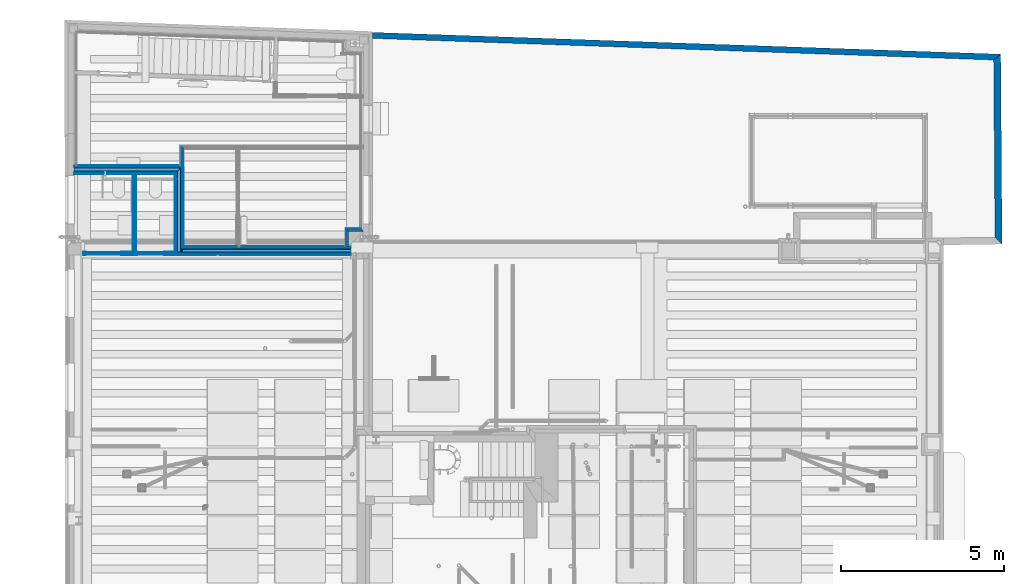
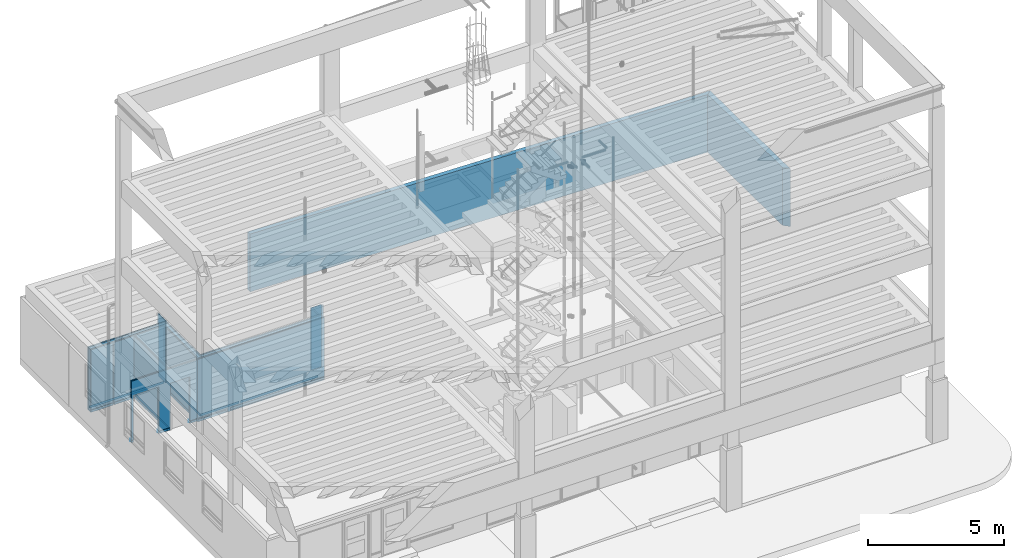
# One storey, part 10 of 108: 52 building element parts, 2 walls, 2 openings, 8 elements without a shape of their own.
"""IFC2X3 building model written with IfcOpenShell, lengths in metres."""

from ifc_helpers import new_model, entity, si_unit, converted_unit, derived_unit, money_unit, direction, frame, frame_2d, origin_with_axes, place, context, subcontext, project, spatial, polyline, rectangle, outline, composite_profile, extrude, material, layer, layer_set, layer_usage, type_object, element, aggregate, save


model = new_model("IFC2X3")

# Units and contexts
model_context = context("Model", 3, precision=1e-05, world=origin_with_axes(), true_north=direction((0.0, 1.0)))
body_context = subcontext(model_context, "Body", "Model", "MODEL_VIEW", scale=1.0)
ifc_project = project(units=[si_unit("LENGTHUNIT", "METRE"), si_unit("AREAUNIT", "SQUARE_METRE"), si_unit("VOLUMEUNIT", "CUBIC_METRE"), si_unit("ABSORBEDDOSEUNIT", "GRAY"), si_unit("AMOUNTOFSUBSTANCEUNIT", "MOLE"), si_unit("DOSEEQUIVALENTUNIT", "SIEVERT"), si_unit("ELECTRICCAPACITANCEUNIT", "FARAD"), si_unit("ELECTRICCHARGEUNIT", "COULOMB"), si_unit("ELECTRICCONDUCTANCEUNIT", "SIEMENS"), si_unit("ELECTRICCURRENTUNIT", "AMPERE"), si_unit("ELECTRICRESISTANCEUNIT", "OHM"), si_unit("ELECTRICVOLTAGEUNIT", "VOLT"), si_unit("ENERGYUNIT", "JOULE"), si_unit("FORCEUNIT", "NEWTON"), si_unit("FREQUENCYUNIT", "HERTZ"), si_unit("ILLUMINANCEUNIT", "LUX"), si_unit("INDUCTANCEUNIT", "HENRY"), si_unit("LUMINOUSFLUXUNIT", "LUMEN"), si_unit("LUMINOUSINTENSITYUNIT", "CANDELA"), si_unit("MAGNETICFLUXDENSITYUNIT", "TESLA"), si_unit("MAGNETICFLUXUNIT", "WEBER"), si_unit("MASSUNIT", "GRAM"), converted_unit("PLANEANGLEUNIT", "degree", entity("IfcReal", 0.0174532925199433), si_unit("PLANEANGLEUNIT", "RADIAN"), dimensions=[0, 0, 0, 0, 0, 0, 0]), si_unit("POWERUNIT", "WATT"), si_unit("PRESSUREUNIT", "PASCAL"), si_unit("RADIOACTIVITYUNIT", "BECQUEREL"), si_unit("SOLIDANGLEUNIT", "STERADIAN"), si_unit("THERMODYNAMICTEMPERATUREUNIT", "KELVIN"), si_unit("TIMEUNIT", "SECOND"), derived_unit("ACCELERATIONUNIT", [(si_unit("LENGTHUNIT", "METRE"), 1), (si_unit("TIMEUNIT", "SECOND"), -2)]), derived_unit("ANGULARVELOCITYUNIT", [(converted_unit("PLANEANGLEUNIT", "degree", entity("IfcReal", 0.0174532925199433), si_unit("PLANEANGLEUNIT", "RADIAN"), dimensions=[0, 0, 0, 0, 0, 0, 0]), 1), (si_unit("TIMEUNIT", "SECOND"), -1)]), derived_unit("CURVATUREUNIT", [(converted_unit("PLANEANGLEUNIT", "degree", entity("IfcReal", 0.0174532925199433), si_unit("PLANEANGLEUNIT", "RADIAN"), dimensions=[0, 0, 0, 0, 0, 0, 0]), 1), (si_unit("LENGTHUNIT", "METRE"), -1)]), derived_unit("DYNAMICVISCOSITYUNIT", [(si_unit("PRESSUREUNIT", "PASCAL"), 1), (si_unit("TIMEUNIT", "SECOND"), 1)]), derived_unit("HEATFLUXDENSITYUNIT", [(si_unit("POWERUNIT", "WATT"), 1), (si_unit("LENGTHUNIT", "METRE"), -2)]), derived_unit("HEATINGVALUEUNIT", [(si_unit("ENERGYUNIT", "JOULE"), 1), (si_unit("MASSUNIT", "GRAM"), -1)]), derived_unit("INTEGERCOUNTRATEUNIT", [(si_unit("TIMEUNIT", "SECOND"), -1)]), derived_unit("IONCONCENTRATIONUNIT", [(si_unit("MASSUNIT", "GRAM"), 1), (si_unit("VOLUMEUNIT", "CUBIC_METRE"), -1)]), derived_unit("ISOTHERMALMOISTURECAPACITYUNIT", [(si_unit("VOLUMEUNIT", "CUBIC_METRE"), 1), (si_unit("MASSUNIT", "GRAM"), -1)]), derived_unit("KINEMATICVISCOSITYUNIT", [(si_unit("AREAUNIT", "SQUARE_METRE"), 1), (si_unit("TIMEUNIT", "SECOND"), -1)]), derived_unit("LINEARFORCEUNIT", [(si_unit("FORCEUNIT", "NEWTON"), 1), (si_unit("LENGTHUNIT", "METRE"), -1)]), derived_unit("LINEARMOMENTUNIT", [(si_unit("FORCEUNIT", "NEWTON"), 1), (si_unit("LENGTHUNIT", "METRE"), -1)]), derived_unit("LINEARSTIFFNESSUNIT", [(si_unit("FORCEUNIT", "NEWTON"), 1), (si_unit("LENGTHUNIT", "METRE"), -1)]), derived_unit("LINEARVELOCITYUNIT", [(si_unit("LENGTHUNIT", "METRE"), 1), (si_unit("TIMEUNIT", "SECOND"), -1)]), derived_unit("LUMINOUSINTENSITYDISTRIBUTIONUNIT", [(si_unit("LUMINOUSINTENSITYUNIT", "CANDELA"), 1), (si_unit("LUMINOUSFLUXUNIT", "LUMEN"), -1)]), derived_unit("MASSDENSITYUNIT", [(si_unit("MASSUNIT", "GRAM"), 1), (si_unit("VOLUMEUNIT", "CUBIC_METRE"), -1)]), derived_unit("MASSFLOWRATEUNIT", [(si_unit("MASSUNIT", "GRAM"), 1), (si_unit("TIMEUNIT", "SECOND"), -1)]), derived_unit("MASSPERLENGTHUNIT", [(si_unit("MASSUNIT", "GRAM"), 1), (si_unit("LENGTHUNIT", "METRE"), -1)]), derived_unit("MODULUSOFELASTICITYUNIT", [(si_unit("FORCEUNIT", "NEWTON"), 1), (si_unit("AREAUNIT", "SQUARE_METRE"), -1)]), derived_unit("MODULUSOFLINEARSUBGRADEREACTIONUNIT", [(si_unit("FORCEUNIT", "NEWTON"), 1), (si_unit("LENGTHUNIT", "METRE"), -2)]), derived_unit("MODULUSOFROTATIONALSUBGRADEREACTIONUNIT", [(si_unit("FORCEUNIT", "NEWTON"), 1), (si_unit("LENGTHUNIT", "METRE"), 1)]), derived_unit("MODULUSOFSUBGRADEREACTIONUNIT", [(si_unit("FORCEUNIT", "NEWTON"), 1), (si_unit("VOLUMEUNIT", "CUBIC_METRE"), -1)]), derived_unit("MOISTUREDIFFUSIVITYUNIT", [(si_unit("VOLUMEUNIT", "CUBIC_METRE"), 1), (si_unit("TIMEUNIT", "SECOND"), -1)]), derived_unit("MOLECULARWEIGHTUNIT", [(si_unit("MASSUNIT", "GRAM"), 1), (si_unit("AMOUNTOFSUBSTANCEUNIT", "MOLE"), -1)]), derived_unit("PLANARFORCEUNIT", [(si_unit("FORCEUNIT", "NEWTON"), 1), (si_unit("LENGTHUNIT", "METRE"), -2)]), derived_unit("ROTATIONALFREQUENCYUNIT", [(si_unit("TIMEUNIT", "SECOND"), -1)]), derived_unit("ROTATIONALMASSUNIT", [(si_unit("MASSUNIT", "GRAM"), 1), (si_unit("LENGTHUNIT", "METRE"), 2)]), derived_unit("ROTATIONALSTIFFNESSUNIT", [(si_unit("FORCEUNIT", "NEWTON"), 1), (si_unit("LENGTHUNIT", "METRE"), 1), (converted_unit("PLANEANGLEUNIT", "degree", entity("IfcReal", 0.0174532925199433), si_unit("PLANEANGLEUNIT", "RADIAN"), dimensions=[0, 0, 0, 0, 0, 0, 0]), -1)]), derived_unit("SECTIONAREAINTEGRALUNIT", [(si_unit("LENGTHUNIT", "METRE"), 5)]), derived_unit("SECTIONMODULUSUNIT", [(si_unit("LENGTHUNIT", "METRE"), 3)]), derived_unit("SHEARMODULUSUNIT", [(si_unit("FORCEUNIT", "NEWTON"), 1), (si_unit("AREAUNIT", "SQUARE_METRE"), -1)]), derived_unit("SOUNDPOWERUNIT", [(si_unit("ENERGYUNIT", "JOULE"), 1), (si_unit("TIMEUNIT", "SECOND"), -1)]), derived_unit("SPECIFICHEATCAPACITYUNIT", [(si_unit("FORCEUNIT", "NEWTON"), 1), (si_unit("MASSUNIT", "GRAM"), -1), (si_unit("THERMODYNAMICTEMPERATUREUNIT", "KELVIN"), -1)]), derived_unit("TEMPERATUREGRADIENTUNIT", [(si_unit("THERMODYNAMICTEMPERATUREUNIT", "KELVIN"), 1), (si_unit("LENGTHUNIT", "METRE"), -1)]), derived_unit("THERMALADMITTANCEUNIT", [(si_unit("POWERUNIT", "WATT"), 1), (si_unit("AREAUNIT", "SQUARE_METRE"), -1), (si_unit("THERMODYNAMICTEMPERATUREUNIT", "KELVIN"), -1)]), derived_unit("THERMALCONDUCTANCEUNIT", [(si_unit("POWERUNIT", "WATT"), 1), (si_unit("LENGTHUNIT", "METRE"), -1), (si_unit("THERMODYNAMICTEMPERATUREUNIT", "KELVIN"), -1)]), derived_unit("THERMALEXPANSIONCOEFFICIENTUNIT", [(si_unit("THERMODYNAMICTEMPERATUREUNIT", "KELVIN"), -1)]), derived_unit("THERMALRESISTANCEUNIT", [(si_unit("AREAUNIT", "SQUARE_METRE"), 1), (si_unit("POWERUNIT", "WATT"), -1)]), derived_unit("THERMALTRANSMITTANCEUNIT", [(si_unit("POWERUNIT", "WATT"), 1), (si_unit("AREAUNIT", "SQUARE_METRE"), -1), (si_unit("THERMODYNAMICTEMPERATUREUNIT", "KELVIN"), -1)]), derived_unit("TORQUEUNIT", [(si_unit("FORCEUNIT", "NEWTON"), 1), (si_unit("LENGTHUNIT", "METRE"), 1)]), derived_unit("VAPORPERMEABILITYUNIT", [(si_unit("MASSUNIT", "GRAM"), 1), (si_unit("TIMEUNIT", "SECOND"), -1)]), derived_unit("VOLUMETRICFLOWRATEUNIT", [(si_unit("VOLUMEUNIT", "CUBIC_METRE"), 1), (si_unit("TIMEUNIT", "SECOND"), -1)]), derived_unit("WARPINGCONSTANTUNIT", [(si_unit("LENGTHUNIT", "METRE"), 6)]), derived_unit("WARPINGMOMENTUNIT", [(si_unit("FORCEUNIT", "NEWTON"), 1), (si_unit("LENGTHUNIT", "METRE"), 2)]), money_unit("GBP")], contexts=[model_context])

# Site, building, storey
site_placement = place(None, origin_with_axes())
site = spatial("IfcSite", under=ifc_project, at=site_placement, Name="Site", CompositionType="ELEMENT")
building_placement = place(site_placement, origin_with_axes())
building = spatial("IfcBuilding", under=site, at=building_placement, Name="Building01", CompositionType="ELEMENT")
storey_placement = place(building_placement, origin_with_axes())
storey = spatial("IfcBuildingStorey", under=building, at=storey_placement, Name="GF", CompositionType="ELEMENT", Elevation=0.0)

# Walls
ifc_material_1 = material(Name="A_BSUK_WallsExternal_Brick")
ifc_layer_1 = layer(ifc_material_1, 0.215, ventilated=False)
ifc_layer_set_1 = layer_set([ifc_layer_1])
ifc_layer_usage_1 = layer_usage(ifc_layer_set_1, "AXIS2", "POSITIVE", 0.0)
wall_type_1 = type_object("IfcWallType", Name="A-Walls-ExternalBrick", PredefinedType="NOTDEFINED")
wall_1_placement = place(storey_placement, frame((28.782327, 14.728819, -0.16), z_axis=(0.0, 0.0, 1.0), x_axis=(-0.00731243, 0.99997326, 0.0)))
element("IfcWallStandardCase", 1, at=wall_1_placement, inside=storey, type_object=wall_type_1, material=ifc_layer_usage_1, Name="A-Walls-ExternalBrick", ObjectType="A-Walls-ExternalBrick", context=body_context, shape_type="SweptSolid", body=[
    extrude(outline(polyline([(5.659049, 0.215), (0.213472, 0.215), (0.0, 0.0), (5.835176, 0.0), (5.659049, 0.215)])), origin_with_axes(), (0.0, 0.0, 1.0), 2.6),
])
ifc_layer_2 = layer(ifc_material_1, 0.185, ventilated=False)
ifc_layer_set_2 = layer_set([ifc_layer_2])
ifc_layer_usage_2 = layer_usage(ifc_layer_set_2, "AXIS2", "POSITIVE", 0.0)
wall_2_placement = place(storey_placement, frame((9.443492, 21.048412, -0.16), z_axis=(0.0, 0.0, 1.0), x_axis=(0.99939831, -0.03468468, 0.0)))
element("IfcWallStandardCase", 2, at=wall_2_placement, inside=storey, type_object=wall_type_1, material=ifc_layer_usage_2, Name="A-Walls-ExternalBrick", ObjectType="A-Walls-ExternalBrick", context=body_context, shape_type="SweptSolid", body=[
    extrude(outline(polyline([(19.301363, 0.185), (-0.006414, 0.185), (0.0, 0.0), (19.093948, 0.0), (19.301363, 0.185)])), origin_with_axes(), (0.0, 0.0, 1.0), 2.6),
])

# Wall, building element parts
wall_type_2 = type_object("IfcWallType", Name="SHE_A-Walls_Type01a_Partywall_250mm_twin", PredefinedType="NOTDEFINED")
wall_3_placement = place(storey_placement, frame((3.455525, 16.968647, 0.148), z_axis=(0.0, 0.0, 1.0), x_axis=(0.0, -1.0, 0.0)))
wall_3 = element("IfcWall", 3, at=wall_3_placement, inside=storey, type_object=wall_type_2, Name="1A", ObjectType="SHE_A-Walls_Type01a_Partywall_250mm_twin")
ifc_material_2 = material(Name="A_BSUK_Walls_Timber")
placement_1 = place(wall_3_placement, origin_with_axes())
building_element_part_1 = element("IfcBuildingElementPart", 4, at=placement_1, material=ifc_material_2, Name="1", context=body_context, shape_type="SweptSolid", body=[
    extrude(composite_profile([outline(polyline([(0.259998, -0.09), (2.473647, -0.09), (2.488647, -0.075), (0.259998, -0.075), (0.259998, -0.09)])), outline(polyline([(0.209998, -0.075), (0.075, -0.075), (0.09, -0.09), (0.209998, -0.09), (0.209998, -0.075)]))]), frame((0.0, 0.0, 0.015), z_axis=(0.0, 0.0, 1.0), x_axis=(1.0, 0.0, 0.0)), (0.0, 0.0, 1.0), 0.1),
])
ifc_material_3 = material(Name="A_BSUK_WallInternal_Finishes_Plasterboard")
building_element_part_2 = element("IfcBuildingElementPart", 5, at=placement_1, material=ifc_material_3, Name="2", context=body_context, shape_type="SweptSolid", body=[
    extrude(composite_profile([outline(polyline([(0.259998, -0.075), (2.568647, -0.075), (2.553647, -0.06), (0.259998, -0.06), (0.259998, -0.075)])), outline(polyline([(0.209998, -0.06), (0.06, -0.06), (0.075, -0.075), (0.209998, -0.075), (0.209998, -0.06)]))]), origin_with_axes(), (0.0, 0.0, 1.0), 2.812),
])
building_element_part_3 = element("IfcBuildingElementPart", 6, at=placement_1, material=ifc_material_3, Name="3", context=body_context, shape_type="SweptSolid", body=[
    extrude(composite_profile([rectangle(XDim=2.27864974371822, YDim=0.015, at=frame_2d((1.399322, -0.0525), x_axis=(1.0, 0.0))), outline(polyline([(0.209998, -0.045), (0.045, -0.045), (0.06, -0.06), (0.209998, -0.06), (0.209998, -0.045)]))]), origin_with_axes(), (0.0, 0.0, 1.0), 2.812),
])
ifc_material_4 = material(Name="Air Cavity")
building_element_part_4 = element("IfcBuildingElementPart", 7, at=placement_1, material=ifc_material_4, Name="4", context=body_context, shape_type="SweptSolid", body=[
    extrude(outline(polyline([(0.0, 0.0), (0.045, -0.045), (2.538647, -0.045), (2.538647, 0.0), (0.0, 0.0)]), holes=[polyline([(0.209998, -0.014999), (0.259998, -0.014999), (0.259998, -0.030001), (0.209998, -0.030001), (0.209998, -0.014999)])]), origin_with_axes(), (0.0, 0.0, 1.0), 2.812),
])
ifc_material_5 = material(Name="A_BSUK_Insulation")
building_element_part_5 = element("IfcBuildingElementPart", 8, at=placement_1, material=ifc_material_5, Name="5", context=body_context, shape_type="SweptSolid", body=[
    extrude(outline(polyline([(2.493647, 0.1), (-0.1, 0.1), (0.0, 0.0), (2.493647, 0.0), (2.493647, 0.1)])), origin_with_axes(), (0.0, 0.0, 1.0), 2.812),
])
building_element_part_6 = element("IfcBuildingElementPart", 9, at=placement_1, material=ifc_material_4, Name="6", context=body_context, shape_type="SweptSolid", body=[
    extrude(outline(polyline([(2.493647, 0.145), (-0.145, 0.145), (-0.1, 0.1), (2.493647, 0.1), (2.493647, 0.145)])), origin_with_axes(), (0.0, 0.0, 1.0), 2.812),
])
building_element_part_7 = element("IfcBuildingElementPart", 10, at=placement_1, material=ifc_material_3, Name="7", context=body_context, shape_type="SweptSolid", body=[
    extrude(outline(polyline([(2.348647, 0.16), (-0.16, 0.16), (-0.145, 0.145), (2.348647, 0.145), (2.348647, 0.16)])), origin_with_axes(), (0.0, 0.0, 1.0), 2.812),
])
building_element_part_8 = element("IfcBuildingElementPart", 11, at=placement_1, material=ifc_material_3, Name="8", context=body_context, shape_type="SweptSolid", body=[
    extrude(outline(polyline([(2.333647, 0.175), (-0.175, 0.175), (-0.16, 0.16), (2.333647, 0.16), (2.333647, 0.175)])), origin_with_axes(), (0.0, 0.0, 1.0), 2.812),
])
building_element_part_9 = element("IfcBuildingElementPart", 12, at=placement_1, material=ifc_material_2, Name="9", context=body_context, shape_type="SweptSolid", body=[
    extrude(outline(polyline([(2.318647, 0.19), (-0.19, 0.19), (-0.175, 0.175), (2.318647, 0.175), (2.318647, 0.19)])), frame((0.0, 0.0, 0.015), z_axis=(0.0, 0.0, 1.0), x_axis=(1.0, 0.0, 0.0)), (0.0, 0.0, 1.0), 0.1),
])
aggregate(wall_3, [building_element_part_1, building_element_part_2, building_element_part_3, building_element_part_4, building_element_part_5, building_element_part_6, building_element_part_7, building_element_part_8, building_element_part_9])

wall_4_placement = place(storey_placement, frame((0.280854, 16.968647, 0.148), z_axis=(0.0, 0.0, 1.0), x_axis=(1.0, 0.0, 0.0)))
wall_4 = element("IfcWall", 13, at=wall_4_placement, inside=storey, type_object=wall_type_2, Name="1A", ObjectType="SHE_A-Walls_Type01a_Partywall_250mm_twin")
placement_2 = place(wall_4_placement, origin_with_axes())
building_element_part_10 = element("IfcBuildingElementPart", 14, at=placement_2, material=ifc_material_2, Name="1", context=body_context, shape_type="SweptSolid", body=[
    extrude(composite_profile([outline(polyline([(1.914671, -0.09), (3.084671, -0.09), (3.099671, -0.075), (1.899671, -0.075), (1.914671, -0.09)])), outline(polyline([(0.934671, -0.075), (-3e-06, -0.075), (-3e-06, -0.09), (0.934671, -0.09), (0.934671, -0.075)])), outline(polyline([(0.984671, -0.09), (1.804671, -0.09), (1.819671, -0.075), (0.984671, -0.075), (0.984671, -0.09)]))]), frame((0.0, 0.0, 0.015), z_axis=(0.0, 0.0, 1.0), x_axis=(1.0, 0.0, 0.0)), (0.0, 0.0, 1.0), 0.1),
])
building_element_part_11 = element("IfcBuildingElementPart", 15, at=placement_2, material=ifc_material_3, Name="2", context=body_context, shape_type="SweptSolid", body=[
    extrude(composite_profile([outline(polyline([(1.899671, -0.075), (3.099671, -0.075), (3.114671, -0.06), (1.884671, -0.06), (1.899671, -0.075)])), outline(polyline([(0.934671, -0.06), (-2e-06, -0.06), (-3e-06, -0.075), (0.934671, -0.075), (0.934671, -0.06)])), outline(polyline([(0.984671, -0.075), (1.819671, -0.075), (1.834671, -0.06), (0.984671, -0.06), (0.984671, -0.075)]))]), origin_with_axes(), (0.0, 0.0, 1.0), 2.812),
])
building_element_part_12 = element("IfcBuildingElementPart", 16, at=placement_2, material=ifc_material_3, Name="3", context=body_context, shape_type="SweptSolid", body=[
    extrude(composite_profile([outline(polyline([(1.871671, -0.06), (3.114671, -0.06), (3.129671, -0.045), (1.871671, -0.045), (1.871671, -0.06)])), outline(polyline([(0.934671, -0.045), (-2e-06, -0.045), (-2e-06, -0.06), (0.934671, -0.06), (0.934671, -0.045)])), rectangle(XDim=0.862, YDim=0.015, at=frame_2d((1.415671, -0.0525), x_axis=(1.0, 0.0)))]), origin_with_axes(), (0.0, 0.0, 1.0), 2.812),
])
building_element_part_13 = element("IfcBuildingElementPart", 17, at=placement_2, material=ifc_material_4, Name="4", context=body_context, shape_type="SweptSolid", body=[
    extrude(outline(polyline([(0.0, 0.0), (-2e-06, -0.045), (3.129671, -0.045), (3.174671, 0.0), (0.0, 0.0)]), holes=[polyline([(1.846671, -0.014999), (1.871671, -0.014999), (1.871671, -0.030001), (1.846671, -0.030001), (1.846671, -0.014999)]), polyline([(0.984671, -0.030001), (0.934671, -0.030001), (0.934671, -0.014999), (0.984671, -0.014999), (0.984671, -0.030001)])]), origin_with_axes(), (0.0, 0.0, 1.0), 2.812),
])
building_element_part_14 = element("IfcBuildingElementPart", 18, at=placement_2, material=ifc_material_5, Name="5", context=body_context, shape_type="SweptSolid", body=[
    extrude(outline(polyline([(3.274671, 0.1), (4e-06, 0.1), (0.0, 0.0), (3.174671, 0.0), (3.274671, 0.1)])), origin_with_axes(), (0.0, 0.0, 1.0), 2.812),
])
building_element_part_15 = element("IfcBuildingElementPart", 19, at=placement_2, material=ifc_material_4, Name="6", context=body_context, shape_type="SweptSolid", body=[
    extrude(outline(polyline([(3.319671, 0.145), (5e-06, 0.145), (4e-06, 0.1), (3.274671, 0.1), (3.319671, 0.145)])), origin_with_axes(), (0.0, 0.0, 1.0), 2.812),
])
building_element_part_16 = element("IfcBuildingElementPart", 20, at=placement_2, material=ifc_material_3, Name="7", context=body_context, shape_type="SweptSolid", body=[
    extrude(outline(polyline([(3.334671, 0.16), (6e-06, 0.16), (5e-06, 0.145), (3.319671, 0.145), (3.334671, 0.16)])), origin_with_axes(), (0.0, 0.0, 1.0), 2.812),
])
building_element_part_17 = element("IfcBuildingElementPart", 21, at=placement_2, material=ifc_material_3, Name="8", context=body_context, shape_type="SweptSolid", body=[
    extrude(outline(polyline([(3.349671, 0.175), (7e-06, 0.175), (6e-06, 0.16), (3.334671, 0.16), (3.349671, 0.175)])), origin_with_axes(), (0.0, 0.0, 1.0), 2.812),
])
building_element_part_18 = element("IfcBuildingElementPart", 22, at=placement_2, material=ifc_material_2, Name="9", context=body_context, shape_type="SweptSolid", body=[
    extrude(rectangle(XDim=3.182664, YDim=0.015, at=frame_2d((1.663339, 0.1825), x_axis=(-1.0, 0.0))), frame((0.0, 0.0, 0.015), z_axis=(0.0, 0.0, 1.0), x_axis=(1.0, 0.0, 0.0)), (0.0, 0.0, 1.0), 0.1),
])
aggregate(wall_4, [building_element_part_10, building_element_part_11, building_element_part_12, building_element_part_13, building_element_part_14, building_element_part_15, building_element_part_16, building_element_part_17, building_element_part_18])

wall_type_3 = type_object("IfcWallType", Name="SHE_A-Walls_Type05b_Partition_80mm", PredefinedType="NOTDEFINED")
wall_5_placement = place(storey_placement, frame((2.140025, 16.893647, 0.198), z_axis=(0.0, 0.0, 1.0), x_axis=(0.0, -1.0, 0.0)))
wall_5 = element("IfcWall", 23, at=wall_5_placement, inside=storey, type_object=wall_type_3, Name="5B", ObjectType="SHE_A-Walls_Type05b_Partition_80mm")
placement_3 = place(wall_5_placement, origin_with_axes())
building_element_part_19 = element("IfcBuildingElementPart", 24, at=placement_3, material=ifc_material_2, Name="1", context=body_context, shape_type="SweptSolid", body=[
    extrude(outline(polyline([(2.413647, -0.0395), (0.0, -0.0395), (0.015, -0.0545), (2.398647, -0.0545), (2.413647, -0.0395)])), frame((0.0, 0.0, 0.015), z_axis=(0.0, 0.0, 1.0), x_axis=(1.0, 0.0, 0.0)), (0.0, 0.0, 1.0), 0.1),
])
building_element_part_20 = element("IfcBuildingElementPart", 25, at=placement_3, material=ifc_material_3, Name="2", context=body_context, shape_type="SweptSolid", body=[
    extrude(rectangle(XDim=2.428647, YDim=0.015, at=frame_2d((1.214324, -0.032), x_axis=(-1.0, 0.0))), origin_with_axes(), (0.0, 0.0, 1.0), 2.762),
])
building_element_part_21 = element("IfcBuildingElementPart", 26, at=placement_3, material=ifc_material_4, Name="3", context=body_context, shape_type="SweptSolid", body=[
    extrude(rectangle(XDim=2.428647, YDim=0.012, at=frame_2d((1.214324, -0.0185), x_axis=(-1.0, 0.0))), origin_with_axes(), (0.0, 0.0, 1.0), 2.762),
])
building_element_part_22 = element("IfcBuildingElementPart", 27, at=placement_3, material=ifc_material_5, Name="4", context=body_context, shape_type="SweptSolid", body=[
    extrude(rectangle(XDim=2.441647, YDim=0.025, at=frame_2d((1.220824, 0.0), x_axis=(-1.0, 0.0))), origin_with_axes(), (0.0, 0.0, 1.0), 2.762),
])
building_element_part_23 = element("IfcBuildingElementPart", 28, at=placement_3, material=ifc_material_4, Name="5", context=body_context, shape_type="SweptSolid", body=[
    extrude(rectangle(XDim=2.441647, YDim=0.013, at=frame_2d((1.220824, 0.019), x_axis=(-1.0, 0.0))), origin_with_axes(), (0.0, 0.0, 1.0), 2.762),
])
building_element_part_24 = element("IfcBuildingElementPart", 29, at=placement_3, material=ifc_material_3, Name="6", context=body_context, shape_type="SweptSolid", body=[
    extrude(rectangle(XDim=2.413647, YDim=0.015, at=frame_2d((1.206824, 0.033), x_axis=(-1.0, 0.0))), origin_with_axes(), (0.0, 0.0, 1.0), 2.762),
])
building_element_part_25 = element("IfcBuildingElementPart", 30, at=placement_3, material=ifc_material_2, Name="7", context=body_context, shape_type="SweptSolid", body=[
    extrude(outline(polyline([(2.398647, 0.0555), (0.015, 0.0555), (0.0, 0.0405), (2.413647, 0.0405), (2.398647, 0.0555)])), frame((0.0, 0.0, 0.015), z_axis=(0.0, 0.0, 1.0), x_axis=(1.0, 0.0, 0.0)), (0.0, 0.0, 1.0), 0.1),
])
aggregate(wall_5, [building_element_part_19, building_element_part_20, building_element_part_21, building_element_part_22, building_element_part_23, building_element_part_24, building_element_part_25])

wall_6_placement = place(storey_placement, frame((3.603525, 17.143647, 0.148), z_axis=(0.0, 0.0, 1.0), x_axis=(0.0, 1.0, 0.0)))
wall_6 = element("IfcWall", 31, at=wall_6_placement, inside=storey, type_object=wall_type_3, Name="5B", ObjectType="SHE_A-Walls_Type05b_Partition_80mm")
placement_4 = place(wall_6_placement, origin_with_axes())
building_element_part_26 = element("IfcBuildingElementPart", 32, at=placement_4, material=ifc_material_3, Name="2", context=body_context, shape_type="SweptSolid", body=[
    extrude(outline(polyline([(0.534924, -0.012), (0.0, -0.012), (0.0, -0.027), (0.519924, -0.027), (0.534924, -0.012)])), origin_with_axes(), (0.0, 0.0, 1.0), 2.812),
])
building_element_part_27 = element("IfcBuildingElementPart", 33, at=placement_4, material=ifc_material_4, Name="3", context=body_context, shape_type="SweptSolid", body=[
    extrude(outline(polyline([(0.546924, 0.0), (0.0, 0.0), (0.0, -0.012), (0.534924, -0.012), (0.546924, 0.0)])), origin_with_axes(), (0.0, 0.0, 1.0), 2.812),
])
building_element_part_28 = element("IfcBuildingElementPart", 34, at=placement_4, material=ifc_material_5, Name="4", context=body_context, shape_type="SweptSolid", body=[
    extrude(outline(polyline([(0.571924, 0.025), (0.0, 0.025), (0.0, 0.0), (0.546924, 0.0), (0.571924, 0.025)])), origin_with_axes(), (0.0, 0.0, 1.0), 2.812),
])
aggregate(wall_6, [building_element_part_26, building_element_part_27, building_element_part_28])

wall_7_placement = place(storey_placement, frame((3.555525, 14.475, 0.148), z_axis=(0.0, 0.0, 1.0), x_axis=(1.0, 0.0, 0.0)))
wall_7 = element("IfcWall", 35, at=wall_7_placement, inside=storey, type_object=wall_type_2, Name="1A", ObjectType="SHE_A-Walls_Type01a_Partywall_250mm_twin")
placement_5 = place(wall_7_placement, origin_with_axes())
building_element_part_29 = element("IfcBuildingElementPart", 36, at=placement_5, material=ifc_material_2, Name="1", context=body_context, shape_type="SweptSolid", body=[
    extrude(rectangle(XDim=0.015, YDim=1.192594, at=frame_2d((0.421297, -0.0825), x_axis=(0.0, -1.0))), frame((0.0, 0.0, 0.015), z_axis=(0.0, 0.0, 1.0), x_axis=(1.0, 0.0, 0.0)), (0.0, 0.0, 1.0), 0.1),
])
building_element_part_30 = element("IfcBuildingElementPart", 37, at=placement_5, material=ifc_material_2, Name="2", context=body_context, shape_type="SweptSolid", body=[
    extrude(rectangle(XDim=4.007584, YDim=0.015, at=frame_2d((3.215949, -0.0825), x_axis=(-1.0, 0.0))), frame((0.0, 0.0, 0.015), z_axis=(0.0, 0.0, 1.0), x_axis=(1.0, 0.0, 0.0)), (0.0, 0.0, 1.0), 0.1),
])
building_element_part_31 = element("IfcBuildingElementPart", 38, at=placement_5, material=ifc_material_3, Name="3", context=body_context, shape_type="SweptSolid", body=[
    extrude(outline(polyline([(5.21974, -0.06), (-0.16, -0.06), (-0.175, -0.075), (5.21974, -0.075), (5.21974, -0.06)])), origin_with_axes(), (0.0, 0.0, 1.0), 2.812),
])
building_element_part_32 = element("IfcBuildingElementPart", 39, at=placement_5, material=ifc_material_3, Name="4", context=body_context, shape_type="SweptSolid", body=[
    extrude(rectangle(XDim=5.37974, YDim=0.015, at=frame_2d((2.52987, -0.0525), x_axis=(-1.0, 0.0))), origin_with_axes(), (0.0, 0.0, 1.0), 2.812),
])
building_element_part_33 = element("IfcBuildingElementPart", 40, at=placement_5, material=ifc_material_4, Name="5", context=body_context, shape_type="SweptSolid", body=[
    extrude(rectangle(XDim=5.37974, YDim=0.045, at=frame_2d((2.52987, -0.0225), x_axis=(-1.0, 0.0))), origin_with_axes(), (0.0, 0.0, 1.0), 2.812),
])
building_element_part_34 = element("IfcBuildingElementPart", 41, at=placement_5, material=ifc_material_5, Name="6", context=body_context, shape_type="SweptSolid", body=[
    extrude(rectangle(XDim=5.21974, YDim=0.1, at=frame_2d((2.60987, 0.05), x_axis=(-1.0, 0.0))), origin_with_axes(), (0.0, 0.0, 1.0), 2.812),
])
building_element_part_35 = element("IfcBuildingElementPart", 42, at=placement_5, material=ifc_material_4, Name="7", context=body_context, shape_type="SweptSolid", body=[
    extrude(rectangle(XDim=5.21974, YDim=0.045, at=frame_2d((2.60987, 0.1225), x_axis=(-1.0, 0.0))), origin_with_axes(), (0.0, 0.0, 1.0), 2.812),
])
building_element_part_36 = element("IfcBuildingElementPart", 43, at=placement_5, material=ifc_material_3, Name="8", context=body_context, shape_type="SweptSolid", body=[
    extrude(rectangle(XDim=5.15974, YDim=0.015, at=frame_2d((2.63987, 0.1525), x_axis=(-1.0, 0.0))), origin_with_axes(), (0.0, 0.0, 1.0), 2.812),
])
building_element_part_37 = element("IfcBuildingElementPart", 44, at=placement_5, material=ifc_material_3, Name="9", context=body_context, shape_type="SweptSolid", body=[
    extrude(rectangle(XDim=5.14474, YDim=0.015, at=frame_2d((2.64737, 0.1675), x_axis=(-1.0, 0.0))), origin_with_axes(), (0.0, 0.0, 1.0), 2.812),
])
building_element_part_38 = element("IfcBuildingElementPart", 45, at=placement_5, material=ifc_material_2, Name="10", context=body_context, shape_type="SweptSolid", body=[
    extrude(rectangle(XDim=1.628731, YDim=0.015, at=frame_2d((0.904366, 0.1825), x_axis=(-1.0, 0.0))), frame((0.0, 0.0, 0.015), z_axis=(0.0, 0.0, 1.0), x_axis=(1.0, 0.0, 0.0)), (0.0, 0.0, 1.0), 0.1),
])
building_element_part_39 = element("IfcBuildingElementPart", 46, at=placement_5, material=ifc_material_2, Name="11", context=body_context, shape_type="SweptSolid", body=[
    extrude(rectangle(XDim=3.279035, YDim=0.015, at=frame_2d((3.438249, 0.1825), x_axis=(-1.0, 0.0))), frame((0.0, 0.0, 0.015), z_axis=(0.0, 0.0, 1.0), x_axis=(1.0, 0.0, 0.0)), (0.0, 0.0, 1.0), 0.1),
])
aggregate(wall_7, [building_element_part_29, building_element_part_30, building_element_part_31, building_element_part_32, building_element_part_33, building_element_part_34, building_element_part_35, building_element_part_36, building_element_part_37, building_element_part_38, building_element_part_39])

# Wall, openings, building element parts
wall_8_placement = place(storey_placement, frame((0.565702, 14.4395, 0.198), z_axis=(0.0, 0.0, 1.0), x_axis=(1.0, 0.0, 0.0)))
wall_8 = element("IfcWall", 47, at=wall_8_placement, inside=storey, type_object=wall_type_3, Name="5B", ObjectType="SHE_A-Walls_Type05b_Partition_80mm")
opening_1_placement = place(wall_8_placement, frame((1.647823, -0.0545, 0.0), z_axis=(0.0, 0.0, 1.0), x_axis=(1.0, 0.0, 0.0)))
element("IfcOpeningElement", 48, at=opening_1_placement, cuts=wall_8, Name="Opening", ObjectType="Opening", context=body_context, shape_type="SweptSolid", body=[
    extrude(rectangle(XDim=2.1, YDim=0.834, at=frame_2d((-0.417, 1.05), x_axis=(0.0, -1.0))), frame((0.0, 0.0, 0.0), z_axis=(0.0, 1.0, 0.0), x_axis=(-1.0, 0.0, 0.0)), (0.0, 0.0, 1.0), 0.11),
])
opening_2_placement = place(wall_8_placement, frame((0.075411, 0.0555, 0.0), z_axis=(0.0, 0.0, 1.0), x_axis=(1.0, 0.0, 0.0)))
element("IfcOpeningElement", 49, at=opening_2_placement, cuts=wall_8, Name="Opening", ObjectType="Opening", context=body_context, shape_type="SweptSolid", body=[
    extrude(rectangle(XDim=1.084, YDim=2.1, at=frame_2d((0.542, 1.05), x_axis=(1.0, 0.0))), frame((0.0, 0.0, 0.0), z_axis=(0.0, -1.0, 0.0), x_axis=(1.0, 0.0, 0.0)), (0.0, 0.0, 1.0), 0.11),
])
placement_6 = place(wall_8_placement, origin_with_axes())
building_element_part_40 = element("IfcBuildingElementPart", 50, at=placement_6, material=ifc_material_2, Name="1", context=body_context, shape_type="SweptSolid", body=[
    extrude(rectangle(XDim=4.069979, YDim=0.015, at=frame_2d((2.03499, -0.047), x_axis=(1.0, 0.0))), frame((0.0, 0.0, 0.015), z_axis=(0.0, 0.0, 1.0), x_axis=(1.0, 0.0, 0.0)), (0.0, 0.0, 1.0), 0.1),
])
building_element_part_41 = element("IfcBuildingElementPart", 51, at=placement_6, material=ifc_material_2, Name="2", context=body_context, shape_type="SweptSolid", body=[
    extrude(rectangle(XDim=4.007584, YDim=0.015, at=frame_2d((6.205771, -0.047), x_axis=(-1.0, 0.0))), frame((0.0, 0.0, 0.015), z_axis=(0.0, 0.0, 1.0), x_axis=(1.0, 0.0, 0.0)), (0.0, 0.0, 1.0), 0.1),
])
building_element_part_42 = element("IfcBuildingElementPart", 52, at=placement_6, material=ifc_material_3, Name="3", context=body_context, shape_type="SweptSolid", body=[
    extrude(rectangle(XDim=2.814823, YDim=0.015, at=frame_2d((1.407411, -0.032), x_axis=(-1.0, 0.0))), origin_with_axes(), (0.0, 0.0, 1.0), 2.762),
])
building_element_part_43 = element("IfcBuildingElementPart", 53, at=placement_6, material=ifc_material_4, Name="4", context=body_context, shape_type="SweptSolid", body=[
    extrude(rectangle(XDim=2.814823, YDim=0.012, at=frame_2d((1.407411, -0.0185), x_axis=(-1.0, 0.0))), origin_with_axes(), (0.0, 0.0, 1.0), 2.762),
])
building_element_part_44 = element("IfcBuildingElementPart", 54, at=placement_6, material=ifc_material_5, Name="5", context=body_context, shape_type="SweptSolid", body=[
    extrude(rectangle(XDim=2.814823, YDim=0.025, at=frame_2d((1.407411, 0.0), x_axis=(-1.0, 0.0))), origin_with_axes(), (0.0, 0.0, 1.0), 2.762),
])
building_element_part_45 = element("IfcBuildingElementPart", 55, at=placement_6, material=ifc_material_4, Name="6", context=body_context, shape_type="SweptSolid", body=[
    extrude(rectangle(XDim=2.814823, YDim=0.013, at=frame_2d((1.407411, 0.019), x_axis=(-1.0, 0.0))), origin_with_axes(), (0.0, 0.0, 1.0), 2.762),
])
building_element_part_46 = element("IfcBuildingElementPart", 56, at=placement_6, material=ifc_material_3, Name="7", context=body_context, shape_type="SweptSolid", body=[
    extrude(rectangle(XDim=1.534823, YDim=0.015, at=frame_2d((0.767411, 0.033), x_axis=(-1.0, 0.0))), origin_with_axes(), (0.0, 0.0, 1.0), 2.762),
])
building_element_part_47 = element("IfcBuildingElementPart", 57, at=placement_6, material=ifc_material_3, Name="8", context=body_context, shape_type="SweptSolid", body=[
    extrude(rectangle(XDim=1.215, YDim=0.015, at=frame_2d((2.207323, 0.033), x_axis=(-1.0, 0.0))), origin_with_axes(), (0.0, 0.0, 1.0), 2.762),
])
building_element_part_48 = element("IfcBuildingElementPart", 58, at=placement_6, material=ifc_material_2, Name="9", context=body_context, shape_type="SweptSolid", body=[
    extrude(composite_profile([outline(polyline([(1.519823, 0.0555), (0.0, 0.0555), (0.0, 0.0405), (1.534823, 0.0405), (1.519823, 0.0555)])), outline(polyline([(1.614823, 0.0405), (2.814823, 0.0405), (2.799823, 0.0555), (1.629823, 0.0555), (1.614823, 0.0405)]))]), frame((0.0, 0.0, 0.015), z_axis=(0.0, 0.0, 1.0), x_axis=(1.0, 0.0, 0.0)), (0.0, 0.0, 1.0), 0.1),
])
aggregate(wall_8, [building_element_part_40, building_element_part_41, building_element_part_42, building_element_part_43, building_element_part_44, building_element_part_45, building_element_part_46, building_element_part_47, building_element_part_48])

# Wall, building element parts
wall_type_4 = type_object("IfcWallType", Name="SHE_A-Walls_Type06c_ExternalWallInsulation_60mm", PredefinedType="NOTDEFINED")
wall_9_placement = place(storey_placement, frame((8.705291, 14.65, 0.148), z_axis=(0.0, 0.0, 1.0), x_axis=(0.0, 1.0, 0.0)))
wall_9 = element("IfcWall", 59, at=wall_9_placement, inside=storey, type_object=wall_type_4, Name="6C", ObjectType="SHE_A-Walls_Type06c_ExternalWallInsulation_60mm")
placement_7 = place(wall_9_placement, origin_with_axes())
building_element_part_49 = element("IfcBuildingElementPart", 60, at=placement_7, material=ifc_material_5, Name="1", context=body_context, shape_type="SweptSolid", body=[
    extrude(outline(polyline([(0.537892, 0.06), (0.0, 0.06), (0.0, 0.0), (0.477892, 0.0), (0.537892, 0.06)])), origin_with_axes(), (0.0, 0.0, 1.0), 2.812),
])
building_element_part_50 = element("IfcBuildingElementPart", 61, at=placement_7, material=ifc_material_3, Name="2", context=body_context, shape_type="SweptSolid", body=[
    extrude(outline(polyline([(0.549892, 0.072), (0.0, 0.072), (0.0, 0.059), (0.536892, 0.059), (0.549892, 0.072)])), origin_with_axes(), (0.0, 0.0, 1.0), 2.812),
])
aggregate(wall_9, [building_element_part_49, building_element_part_50])

wall_10_placement = place(storey_placement, frame((8.705291, 15.127892, 0.148), z_axis=(0.0, 0.0, 1.0), x_axis=(1.0, 0.0, 0.0)))
wall_10 = element("IfcWall", 62, at=wall_10_placement, inside=storey, type_object=wall_type_4, Name="6C", ObjectType="SHE_A-Walls_Type06c_ExternalWallInsulation_60mm")
placement_8 = place(wall_10_placement, origin_with_axes())
building_element_part_51 = element("IfcBuildingElementPart", 63, at=placement_8, material=ifc_material_5, Name="1", context=body_context, shape_type="SweptSolid", body=[
    extrude(outline(polyline([(0.388974, 0.06), (-0.06, 0.06), (0.0, 0.0), (0.448974, 0.0), (0.388974, 0.06)])), origin_with_axes(), (0.0, 0.0, 1.0), 2.812),
])
building_element_part_52 = element("IfcBuildingElementPart", 64, at=placement_8, material=ifc_material_3, Name="2", context=body_context, shape_type="SweptSolid", body=[
    extrude(outline(polyline([(0.376974, 0.072), (-0.072, 0.072), (-0.059, 0.059), (0.389974, 0.059), (0.376974, 0.072)])), origin_with_axes(), (0.0, 0.0, 1.0), 2.812),
])
aggregate(wall_10, [building_element_part_51, building_element_part_52])

save(model, "model.ifc")
